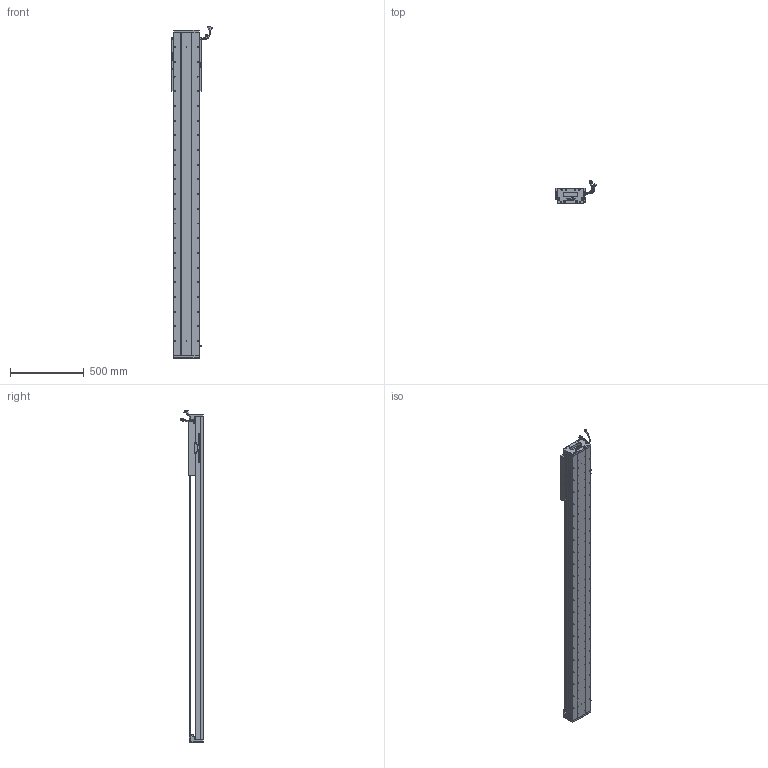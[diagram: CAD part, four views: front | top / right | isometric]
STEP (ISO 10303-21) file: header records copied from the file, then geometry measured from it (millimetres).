
FILE_DESCRIPTION (( 'STEP AP203' ), '1' );
FILE_NAME ('Z5-RY170D-1-L500-B-K.SLDASM_1750.step', '2021-05-18T00:41:38', ( '盈信电脑' ), ( '东莞市道滘镇水果街19号' ), 'SwSTEP 2.0', 'SolidWorks 2016', '' );
FILE_SCHEMA (( 'CONFIG_CONTROL_DESIGN' ));
Length unit declared in the file: millimetre
Products named in the file (36): 覜茼ん672; Z-RY170詩湍狟揤裔; SCREW-M1.6-2; SCALE; SEAL; Z5-RY170臏賑輸(21遴); SEAL-Part-1; HOLDER0; RY170直线电机感应器672光电感应片; 榋妏寠巭燃_暯_M2_2; HARNESS; SCREW-M1.6; PSLH080_PSLF2; COVER; SCALE-Part-2; HARNESS-Part-1; SCALE-Part-1; LABEL-Part-1; Z5-RY170D-1-L500-B-K.SLDASM_1750; HARNESS-Part-2; PBU_SHEET; 080黍杅芛假蚾釱21遴; SCREW-M1.6-3; 140雄赽晤鎢ん堤盄; COVER-Part-1; 170-Z-臏賑輸盄裔(21遴); Z-RY170詩湍奻揤裔; LABEL; Z-170詩湍傷裔啣; SCREW-M1.7; Z5-RY170-L500耀郪菁釱_1750; Z5-RY170-L500詩湍145mm遵_1750; SCREW-M1.6-1; SCREW-M1.7-1; SHIELDPLATE; 140蚥薯蝶輸
Assembly tree (41 placements, depth 4):
  Z5-RY170D-1-L500-B-K.SLDASM_1750
    Z5-RY170-L500耀郪菁釱_1750
    RY170直线电机感应器672光电感应片
    Z5-RY170臏賑輸(21遴)
    覜茼ん672  x3
    PSLH080_PSLF2
      SCALE
        SCALE-Part-1
        SCALE-Part-2
      HARNESS
        HARNESS-Part-1
        HARNESS-Part-2
      LABEL
        LABEL-Part-1
      COVER
        COVER-Part-1
      SEAL
        SEAL-Part-1
      榋妏寠巭燃_暯_M2_2
      SHIELDPLATE
      SCREW-M1.7
      SCREW-M1.7-1
      PBU_SHEET
      SCREW-M1.6
      SCREW-M1.6-1
      SCREW-M1.6-2
      SCREW-M1.6-3
      HOLDER0
    080黍杅芛假蚾釱21遴
    Z5-RY170-L500詩湍145mm遵_1750
    Z-170詩湍傷裔啣  x2
    Z-RY170詩湍奻揤裔  x2
    Z-RY170詩湍狟揤裔  x2
    140蚥薯蝶輸  x2
    170-Z-臏賑輸盄裔(21遴)
    140雄赽晤鎢ん堤盄
Bounding box: 275.34 x 158.11 x 2258.72 mm (x, y, z)
Volume: 12056109.8 mm3; surface area: 2892554.9 mm2
Topology: 36 solids, 36 shells, 3884 faces, 10657 edges, 6663 vertices
Faces by surface type: cylinder 1928, plane 1290, cone 544, torus 69, bspline 53
Entity records: 120217 total; most frequent: CARTESIAN_POINT 32590, ORIENTED_EDGE 17846, DIRECTION 16975, EDGE_CURVE 8923, AXIS2_PLACEMENT_3D 6278, VERTEX_POINT 5781, VECTOR 4419, LINE 4419
